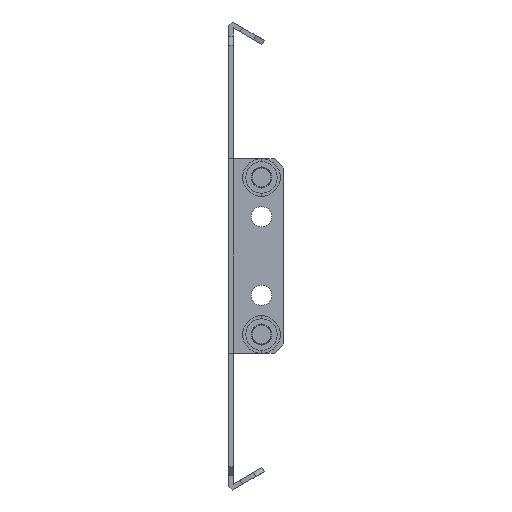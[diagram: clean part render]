
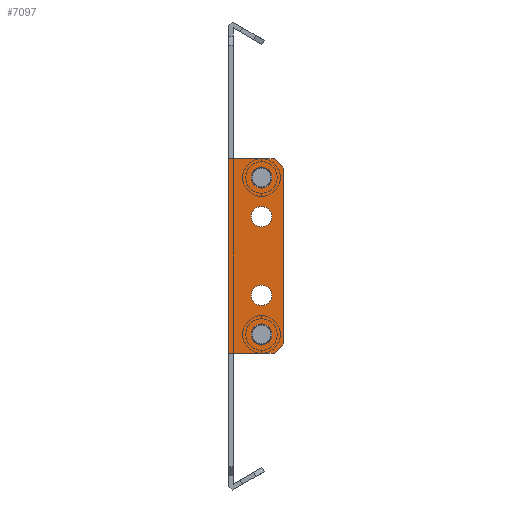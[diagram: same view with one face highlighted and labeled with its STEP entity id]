
A CAD part, front view. The second image highlights one B-rep face of the part: STEP entity #7097.
In plain terms, the highlighted planar face has unit normal (0, -1, 0).
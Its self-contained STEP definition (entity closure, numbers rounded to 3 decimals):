
#8 = ORIENTED_EDGE ( 'NONE', *, *, #145, .T. ) ;
#145 = EDGE_CURVE ( 'NONE', #9103, #2367, #4035, .T. ) ;
#209 = VERTEX_POINT ( 'NONE', #6755 ) ;
#296 = CARTESIAN_POINT ( 'NONE',  ( 4.064, -351.289, 11.976 ) ) ;
#353 = CARTESIAN_POINT ( 'NONE',  ( 7.814, -351.289, 27.476 ) ) ;
#367 = DIRECTION ( 'NONE',  ( -1., 0., 0. ) ) ;
#686 = PLANE ( 'NONE',  #3191 ) ;
#769 = DIRECTION ( 'NONE',  ( -1., 0., 0. ) ) ;
#1015 = ORIENTED_EDGE ( 'NONE', *, *, #5219, .T. ) ;
#1039 = DIRECTION ( 'NONE',  ( 0., -1., 0. ) ) ;
#1086 = CARTESIAN_POINT ( 'NONE',  ( -9.686, -351.289, 30.476 ) ) ;
#1159 = VECTOR ( 'NONE', #7815, 1000. ) ;
#1196 = CARTESIAN_POINT ( 'NONE',  ( -2.436, -351.289, -25.524 ) ) ;
#1322 = CARTESIAN_POINT ( 'NONE',  ( -9.686, -351.289, -31.524 ) ) ;
#1375 = ORIENTED_EDGE ( 'NONE', *, *, #11023, .F. ) ;
#1491 = DIRECTION ( 'NONE',  ( 0., 1., 0. ) ) ;
#1553 = FACE_BOUND ( 'NONE', #1613, .T. ) ;
#1613 = EDGE_LOOP ( 'NONE', ( #1375, #8381 ) ) ;
#1633 = DIRECTION ( 'NONE',  ( 0., -1., 0. ) ) ;
#1870 = DIRECTION ( 'NONE',  ( -1., 0., 0. ) ) ;
#2021 = LINE ( 'NONE', #1086, #10367 ) ;
#2105 = CIRCLE ( 'NONE', #2909, 3.25 ) ;
#2313 = CARTESIAN_POINT ( 'NONE',  ( 4.064, -351.289, -25.524 ) ) ;
#2367 = VERTEX_POINT ( 'NONE', #8480 ) ;
#2382 = EDGE_CURVE ( 'NONE', #6332, #209, #4016, .T. ) ;
#2487 = FACE_BOUND ( 'NONE', #3356, .T. ) ;
#2644 = LINE ( 'NONE', #4602, #6814 ) ;
#2701 = AXIS2_PLACEMENT_3D ( 'NONE', #6435, #11189, #2740 ) ;
#2740 = DIRECTION ( 'NONE',  ( -1., 0., 0. ) ) ;
#2741 = EDGE_CURVE ( 'NONE', #7453, #3747, #6948, .T. ) ;
#2767 = DIRECTION ( 'NONE',  ( -0.707, 0., 0.707 ) ) ;
#2899 = ORIENTED_EDGE ( 'NONE', *, *, #8007, .F. ) ;
#2909 = AXIS2_PLACEMENT_3D ( 'NONE', #4745, #1039, #11237 ) ;
#2919 = DIRECTION ( 'NONE',  ( 0., -1., 0. ) ) ;
#2973 = CARTESIAN_POINT ( 'NONE',  ( -7.186, -351.289, -31.524 ) ) ;
#3013 = CARTESIAN_POINT ( 'NONE',  ( -7.186, -351.289, 30.476 ) ) ;
#3032 = LINE ( 'NONE', #4072, #4982 ) ;
#3191 = AXIS2_PLACEMENT_3D ( 'NONE', #7061, #1491, #9096 ) ;
#3326 = CARTESIAN_POINT ( 'NONE',  ( -2.436, -351.289, -13.024 ) ) ;
#3341 = VERTEX_POINT ( 'NONE', #2973 ) ;
#3350 = FACE_BOUND ( 'NONE', #4151, .T. ) ;
#3356 = EDGE_LOOP ( 'NONE', ( #11718, #8053 ) ) ;
#3376 = CARTESIAN_POINT ( 'NONE',  ( -2.436, -351.289, 11.976 ) ) ;
#3399 = EDGE_CURVE ( 'NONE', #2367, #7553, #3032, .T. ) ;
#3709 = VERTEX_POINT ( 'NONE', #5445 ) ;
#3747 = VERTEX_POINT ( 'NONE', #3376 ) ;
#3749 = CARTESIAN_POINT ( 'NONE',  ( 4.064, -351.289, -13.024 ) ) ;
#3760 = ORIENTED_EDGE ( 'NONE', *, *, #4896, .T. ) ;
#3792 = VECTOR ( 'NONE', #2767, 1000. ) ;
#3806 = ORIENTED_EDGE ( 'NONE', *, *, #6279, .F. ) ;
#3922 = EDGE_CURVE ( 'NONE', #8479, #3709, #2644, .T. ) ;
#4016 = CIRCLE ( 'NONE', #8347, 3.25 ) ;
#4035 = LINE ( 'NONE', #5013, #1159 ) ;
#4036 = EDGE_CURVE ( 'NONE', #3709, #9088, #4488, .T. ) ;
#4072 = CARTESIAN_POINT ( 'NONE',  ( 7.814, -351.289, -0.524 ) ) ;
#4151 = EDGE_LOOP ( 'NONE', ( #8660, #3806 ) ) ;
#4224 = CIRCLE ( 'NONE', #2701, 3.25 ) ;
#4257 = VECTOR ( 'NONE', #5817, 1000. ) ;
#4298 = EDGE_CURVE ( 'NONE', #9004, #5542, #4224, .T. ) ;
#4357 = DIRECTION ( 'NONE',  ( -1., 0., 0. ) ) ;
#4459 = FACE_BOUND ( 'NONE', #11669, .T. ) ;
#4488 = LINE ( 'NONE', #7469, #12145 ) ;
#4602 = CARTESIAN_POINT ( 'NONE',  ( -7.186, -351.289, 30.476 ) ) ;
#4745 = CARTESIAN_POINT ( 'NONE',  ( 0.814, -351.289, -13.024 ) ) ;
#4756 = VERTEX_POINT ( 'NONE', #3326 ) ;
#4811 = CARTESIAN_POINT ( 'NONE',  ( 0.814, -351.289, 24.476 ) ) ;
#4896 = EDGE_CURVE ( 'NONE', #11568, #8479, #2021, .T. ) ;
#4982 = VECTOR ( 'NONE', #6850, 1000. ) ;
#5013 = CARTESIAN_POINT ( 'NONE',  ( 7.814, -351.289, -28.524 ) ) ;
#5078 = ORIENTED_EDGE ( 'NONE', *, *, #2741, .F. ) ;
#5082 = CARTESIAN_POINT ( 'NONE',  ( 4.814, -351.289, -31.524 ) ) ;
#5182 = AXIS2_PLACEMENT_3D ( 'NONE', #6220, #7280, #4357 ) ;
#5219 = EDGE_CURVE ( 'NONE', #7553, #11568, #6644, .T. ) ;
#5322 = FACE_OUTER_BOUND ( 'NONE', #7613, .T. ) ;
#5338 = DIRECTION ( 'NONE',  ( 0., -1., 0. ) ) ;
#5400 = DIRECTION ( 'NONE',  ( -1., 0., 0. ) ) ;
#5445 = CARTESIAN_POINT ( 'NONE',  ( -9.686, -351.289, 30.476 ) ) ;
#5542 = VERTEX_POINT ( 'NONE', #2313 ) ;
#5814 = DIRECTION ( 'NONE',  ( 1., 0., 0. ) ) ;
#5817 = DIRECTION ( 'NONE',  ( -1., 0., 0. ) ) ;
#5846 = AXIS2_PLACEMENT_3D ( 'NONE', #11366, #2919, #10449 ) ;
#6220 = CARTESIAN_POINT ( 'NONE',  ( 0.814, -351.289, -25.524 ) ) ;
#6247 = CIRCLE ( 'NONE', #5846, 3.25 ) ;
#6279 = EDGE_CURVE ( 'NONE', #5542, #9004, #11889, .T. ) ;
#6332 = VERTEX_POINT ( 'NONE', #6340 ) ;
#6340 = CARTESIAN_POINT ( 'NONE',  ( 4.064, -351.289, 24.476 ) ) ;
#6435 = CARTESIAN_POINT ( 'NONE',  ( 0.814, -351.289, -25.524 ) ) ;
#6529 = CIRCLE ( 'NONE', #10283, 3.25 ) ;
#6538 = VECTOR ( 'NONE', #5814, 1000. ) ;
#6644 = LINE ( 'NONE', #7529, #3792 ) ;
#6755 = CARTESIAN_POINT ( 'NONE',  ( -2.436, -351.289, 24.476 ) ) ;
#6814 = VECTOR ( 'NONE', #9305, 1000. ) ;
#6850 = DIRECTION ( 'NONE',  ( 0., 0., 1. ) ) ;
#6948 = CIRCLE ( 'NONE', #10121, 3.25 ) ;
#7061 = CARTESIAN_POINT ( 'NONE',  ( -9.686, -351.289, -0.524 ) ) ;
#7097 = ADVANCED_FACE ( 'NONE', ( #2487, #4459, #3350, #1553, #5322 ), #686, .F. ) ;
#7280 = DIRECTION ( 'NONE',  ( 0., -1., 0. ) ) ;
#7398 = CARTESIAN_POINT ( 'NONE',  ( 0.814, -351.289, 24.476 ) ) ;
#7453 = VERTEX_POINT ( 'NONE', #296 ) ;
#7469 = CARTESIAN_POINT ( 'NONE',  ( -9.686, -351.289, -0.524 ) ) ;
#7529 = CARTESIAN_POINT ( 'NONE',  ( 4.814, -351.289, 30.476 ) ) ;
#7553 = VERTEX_POINT ( 'NONE', #353 ) ;
#7613 = EDGE_LOOP ( 'NONE', ( #9391, #1015, #3760, #9561, #8326, #11279, #10647, #8 ) ) ;
#7616 = LINE ( 'NONE', #8544, #4257 ) ;
#7815 = DIRECTION ( 'NONE',  ( 0.707, 0., 0.707 ) ) ;
#8007 = EDGE_CURVE ( 'NONE', #3747, #7453, #12012, .T. ) ;
#8053 = ORIENTED_EDGE ( 'NONE', *, *, #2382, .F. ) ;
#8262 = DIRECTION ( 'NONE',  ( 0., 0., -1. ) ) ;
#8326 = ORIENTED_EDGE ( 'NONE', *, *, #4036, .T. ) ;
#8347 = AXIS2_PLACEMENT_3D ( 'NONE', #4811, #8593, #1870 ) ;
#8381 = ORIENTED_EDGE ( 'NONE', *, *, #11399, .F. ) ;
#8479 = VERTEX_POINT ( 'NONE', #3013 ) ;
#8480 = CARTESIAN_POINT ( 'NONE',  ( 7.814, -351.289, -28.524 ) ) ;
#8544 = CARTESIAN_POINT ( 'NONE',  ( -9.686, -351.289, -31.524 ) ) ;
#8593 = DIRECTION ( 'NONE',  ( 0., -1., 0. ) ) ;
#8660 = ORIENTED_EDGE ( 'NONE', *, *, #4298, .F. ) ;
#9004 = VERTEX_POINT ( 'NONE', #1196 ) ;
#9071 = AXIS2_PLACEMENT_3D ( 'NONE', #10107, #1633, #5400 ) ;
#9088 = VERTEX_POINT ( 'NONE', #1322 ) ;
#9096 = DIRECTION ( 'NONE',  ( 1., 0., 0. ) ) ;
#9103 = VERTEX_POINT ( 'NONE', #5082 ) ;
#9210 = EDGE_CURVE ( 'NONE', #209, #6332, #6529, .T. ) ;
#9305 = DIRECTION ( 'NONE',  ( -1., 0., 0. ) ) ;
#9391 = ORIENTED_EDGE ( 'NONE', *, *, #3399, .T. ) ;
#9561 = ORIENTED_EDGE ( 'NONE', *, *, #3922, .T. ) ;
#9813 = EDGE_CURVE ( 'NONE', #3341, #9103, #11307, .T. ) ;
#10107 = CARTESIAN_POINT ( 'NONE',  ( 0.814, -351.289, 11.976 ) ) ;
#10121 = AXIS2_PLACEMENT_3D ( 'NONE', #11596, #11849, #367 ) ;
#10283 = AXIS2_PLACEMENT_3D ( 'NONE', #7398, #5338, #769 ) ;
#10367 = VECTOR ( 'NONE', #12087, 1000. ) ;
#10390 = CARTESIAN_POINT ( 'NONE',  ( -9.686, -351.289, -31.524 ) ) ;
#10449 = DIRECTION ( 'NONE',  ( -1., 0., 0. ) ) ;
#10614 = CARTESIAN_POINT ( 'NONE',  ( 4.814, -351.289, 30.476 ) ) ;
#10647 = ORIENTED_EDGE ( 'NONE', *, *, #9813, .T. ) ;
#11005 = EDGE_CURVE ( 'NONE', #3341, #9088, #7616, .T. ) ;
#11023 = EDGE_CURVE ( 'NONE', #4756, #11778, #6247, .T. ) ;
#11189 = DIRECTION ( 'NONE',  ( 0., -1., 0. ) ) ;
#11237 = DIRECTION ( 'NONE',  ( -1., 0., 0. ) ) ;
#11279 = ORIENTED_EDGE ( 'NONE', *, *, #11005, .F. ) ;
#11307 = LINE ( 'NONE', #10390, #6538 ) ;
#11366 = CARTESIAN_POINT ( 'NONE',  ( 0.814, -351.289, -13.024 ) ) ;
#11399 = EDGE_CURVE ( 'NONE', #11778, #4756, #2105, .T. ) ;
#11568 = VERTEX_POINT ( 'NONE', #10614 ) ;
#11596 = CARTESIAN_POINT ( 'NONE',  ( 0.814, -351.289, 11.976 ) ) ;
#11669 = EDGE_LOOP ( 'NONE', ( #2899, #5078 ) ) ;
#11718 = ORIENTED_EDGE ( 'NONE', *, *, #9210, .F. ) ;
#11778 = VERTEX_POINT ( 'NONE', #3749 ) ;
#11849 = DIRECTION ( 'NONE',  ( 0., -1., 0. ) ) ;
#11889 = CIRCLE ( 'NONE', #5182, 3.25 ) ;
#12012 = CIRCLE ( 'NONE', #9071, 3.25 ) ;
#12087 = DIRECTION ( 'NONE',  ( -1., 0., 0. ) ) ;
#12145 = VECTOR ( 'NONE', #8262, 1000. ) ;
